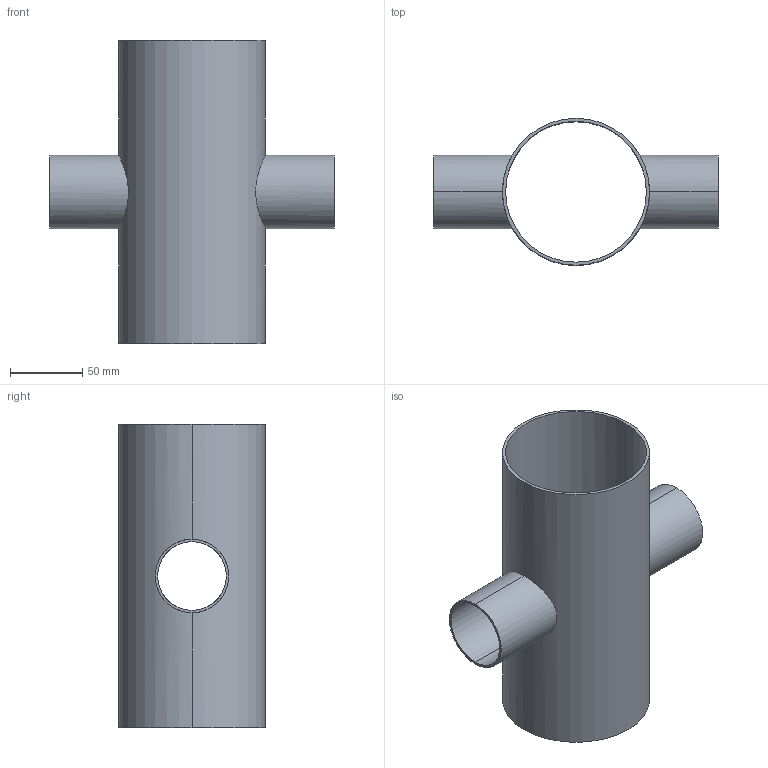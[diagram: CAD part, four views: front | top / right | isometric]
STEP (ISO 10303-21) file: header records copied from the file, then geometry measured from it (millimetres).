
FILE_DESCRIPTION (( 'STEP AP214' ), '1' );
FILE_NAME ('TE9RWWWW6L4.0x2.0-...STEP', '2016-05-22T04:47:11', ( 'eran' ), ( '' ), 'SwSTEP 2.0', 'SolidWorks 2016', '' );
FILE_SCHEMA (( 'AUTOMOTIVE_DESIGN' ));
Length unit declared in the file: millimetre
Products named in the file (1): TE9RWWWW6L4.0x2.0-..
Bounding box: 196.85 x 101.6 x 209.55 mm (x, y, z)
Volume: 156245.7 mm3; surface area: 156985.1 mm2
Topology: 1 solids, 1 shells, 16 faces, 40 edges, 24 vertices
Faces by surface type: cylinder 12, plane 4
Entity records: 1058 total; most frequent: CARTESIAN_POINT 633, DIRECTION 82, ORIENTED_EDGE 80, EDGE_CURVE 40, AXIS2_PLACEMENT_3D 33, VERTEX_POINT 24, EDGE_LOOP 20, CIRCLE 16
